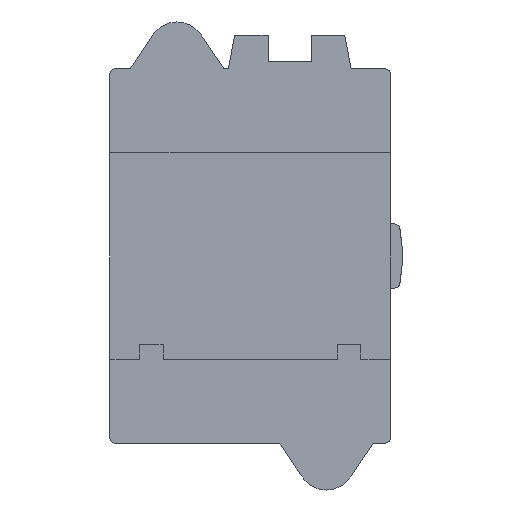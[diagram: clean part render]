
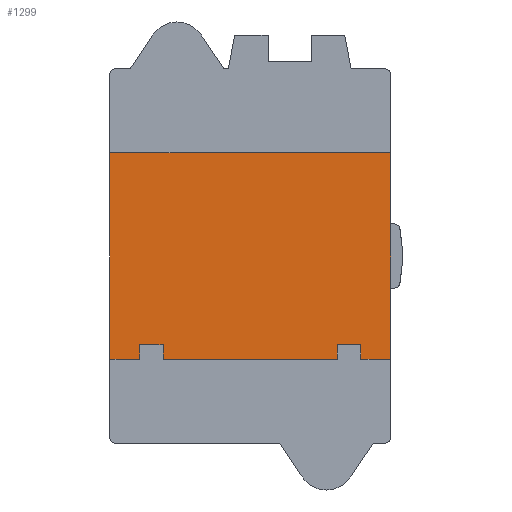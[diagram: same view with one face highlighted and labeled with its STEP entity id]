
A CAD part, front view. The second image highlights one B-rep face of the part: STEP entity #1299.
In plain terms, the highlighted planar face has unit normal (0, -1, 0).
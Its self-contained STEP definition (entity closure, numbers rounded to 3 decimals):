
#399 = DIRECTION ( 'NONE',  ( 0., 1., 0. ) ) ;
#802 = CARTESIAN_POINT ( 'NONE',  ( -24., 4., 17.65 ) ) ;
#1299 = ADVANCED_FACE ( 'NONE', ( #1855 ), #4565, .F. ) ;
#1574 = EDGE_CURVE ( 'NONE', #7674, #2344, #9111, .T. ) ;
#1855 = FACE_OUTER_BOUND ( 'NONE', #17147, .T. ) ;
#2211 = VECTOR ( 'NONE', #12384, 1000. ) ;
#2344 = VERTEX_POINT ( 'NONE', #11592 ) ;
#3089 = LINE ( 'NONE', #9635, #17610 ) ;
#3765 = DIRECTION ( 'NONE',  ( 1., 0., 0. ) ) ;
#4565 = PLANE ( 'NONE',  #14302 ) ;
#4981 = VERTEX_POINT ( 'NONE', #14500 ) ;
#5369 = VECTOR ( 'NONE', #3765, 1000. ) ;
#6189 = EDGE_CURVE ( 'NONE', #7674, #10100, #11259, .T. ) ;
#6562 = ORIENTED_EDGE ( 'NONE', *, *, #6189, .T. ) ;
#7141 = EDGE_CURVE ( 'NONE', #2344, #4981, #17152, .T. ) ;
#7674 = VERTEX_POINT ( 'NONE', #802 ) ;
#8274 = CARTESIAN_POINT ( 'NONE',  ( -24., 4., -17.65 ) ) ;
#8426 = ORIENTED_EDGE ( 'NONE', *, *, #1574, .F. ) ;
#9111 = LINE ( 'NONE', #13612, #5369 ) ;
#9635 = CARTESIAN_POINT ( 'NONE',  ( 0., 4., -17.65 ) ) ;
#10100 = VERTEX_POINT ( 'NONE', #8274 ) ;
#10205 = DIRECTION ( 'NONE',  ( 0., 0., 1. ) ) ;
#11259 = LINE ( 'NONE', #11648, #14129 ) ;
#11592 = CARTESIAN_POINT ( 'NONE',  ( 24., 4., 17.65 ) ) ;
#11648 = CARTESIAN_POINT ( 'NONE',  ( -24., 4., -32. ) ) ;
#12384 = DIRECTION ( 'NONE',  ( 0., 0., -1. ) ) ;
#13076 = DIRECTION ( 'NONE',  ( 0., 0., -1. ) ) ;
#13390 = EDGE_CURVE ( 'NONE', #4981, #10100, #3089, .T. ) ;
#13612 = CARTESIAN_POINT ( 'NONE',  ( 0., 4., 17.65 ) ) ;
#13803 = CARTESIAN_POINT ( 'NONE',  ( 24., 4., 0. ) ) ;
#14129 = VECTOR ( 'NONE', #13076, 1000. ) ;
#14253 = ORIENTED_EDGE ( 'NONE', *, *, #7141, .F. ) ;
#14302 = AXIS2_PLACEMENT_3D ( 'NONE', #15816, #399, #10205 ) ;
#14500 = CARTESIAN_POINT ( 'NONE',  ( 24., 4., -17.65 ) ) ;
#15356 = DIRECTION ( 'NONE',  ( -1., 0., 0. ) ) ;
#15816 = CARTESIAN_POINT ( 'NONE',  ( 0., 4., 0. ) ) ;
#17147 = EDGE_LOOP ( 'NONE', ( #17577, #14253, #8426, #6562 ) ) ;
#17152 = LINE ( 'NONE', #13803, #2211 ) ;
#17577 = ORIENTED_EDGE ( 'NONE', *, *, #13390, .F. ) ;
#17610 = VECTOR ( 'NONE', #15356, 1000. ) ;
